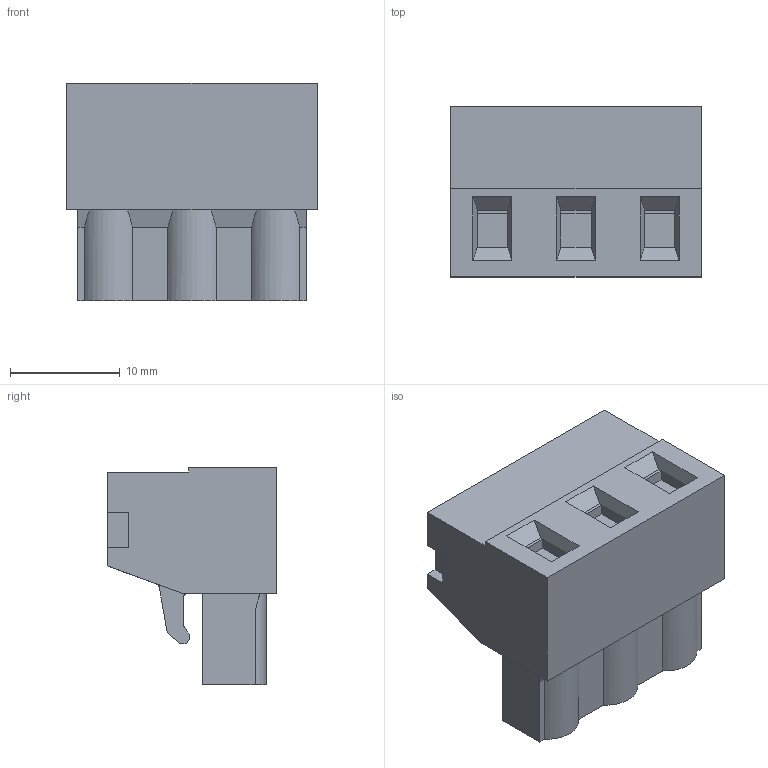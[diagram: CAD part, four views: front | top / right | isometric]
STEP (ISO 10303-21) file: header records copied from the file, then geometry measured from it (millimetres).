
FILE_DESCRIPTION(('STEP AP214'),'1');
FILE_NAME('//Srv4/ut/ASSEL/Modelli 3D (NON dettagliati x SITO WEB)/SHxx-7.62/SH02-15,24.stp','2020-05-26T13:09:52',(' '),(' '),'Spatial InterOp 3D',' ',' ');
FILE_SCHEMA(('automotive_design'));
Length unit declared in the file: metre
Products named in the file (1): 1
Bounding box: 22.86 x 15.5 x 19.85 mm (x, y, z)
Volume: 4469.1 mm3; surface area: 2406.3 mm2
Topology: 1 solids, 1 shells, 163 faces, 415 edges, 273 vertices
Faces by surface type: plane 131, cylinder 28, cone 3, extrusion 1
Full cylindrical faces by diameter (mm): 1.6 x3, 3.8 x3, 4 x3
Entity records: 6090 total; most frequent: CARTESIAN_POINT 846, ORIENTED_EDGE 794, DIRECTION 793, EDGE_CURVE 397, VECTOR 325, LINE 324, VERTEX_POINT 267, AXIS2_PLACEMENT_3D 234
